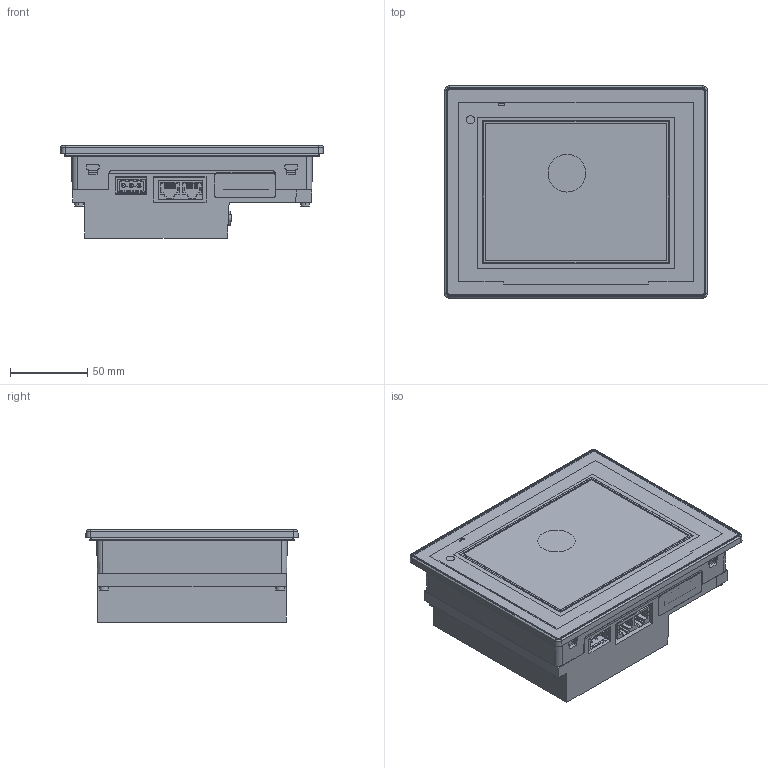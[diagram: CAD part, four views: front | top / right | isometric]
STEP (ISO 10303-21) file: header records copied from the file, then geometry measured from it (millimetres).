
FILE_DESCRIPTION (( 'STEP AP203' ), '1' );
FILE_NAME ('PFXGP6300TAD_3D-simpl.STEP', '2025-02-06T13:35:14', ( '' ), ( '' ), 'SwSTEP 2.0', 'SolidWorks 2017', '' );
FILE_SCHEMA (( 'CONFIG_CONTROL_DESIGN' ));
Length unit declared in the file: millimetre
Products named in the file (1): PFXGP6300TAD_3D-simpl
Bounding box: 169.5 x 137 x 59.5 mm (x, y, z)
Volume: 925371 mm3; surface area: 175694.3 mm2
Topology: 5 solids, 13 shells, 2595 faces, 7038 edges, 4486 vertices
Faces by surface type: plane 1372, cylinder 801, bspline 321, cone 86, torus 15
Entity records: 94825 total; most frequent: CARTESIAN_POINT 32398, ORIENTED_EDGE 13972, DIRECTION 11559, EDGE_CURVE 6986, VERTEX_POINT 4486, VECTOR 4477, LINE 4477, AXIS2_PLACEMENT_3D 3541
